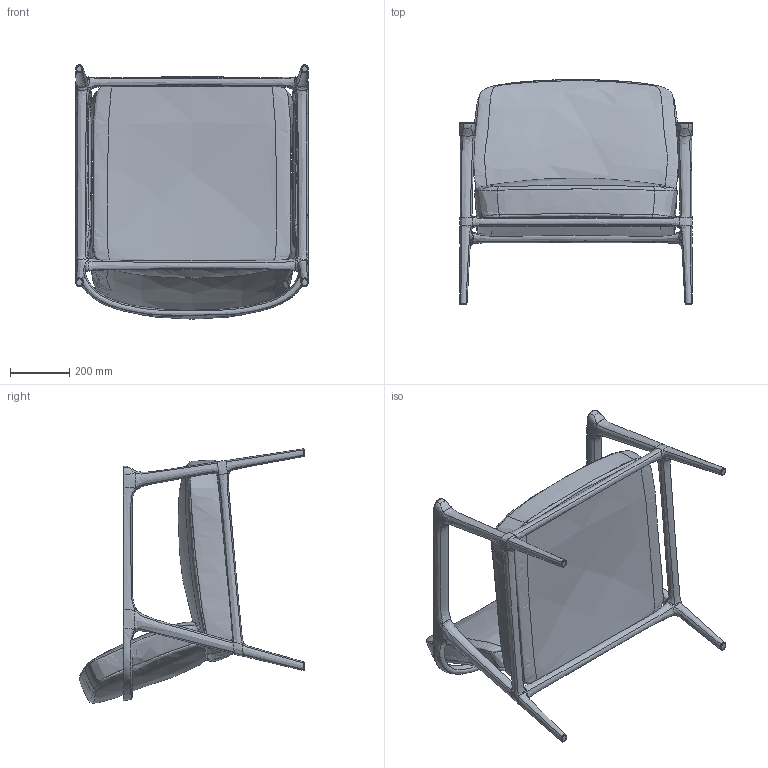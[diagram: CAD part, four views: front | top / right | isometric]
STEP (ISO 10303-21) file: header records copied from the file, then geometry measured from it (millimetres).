
FILE_DESCRIPTION (( 'STEP AP214' ), '1' );
FILE_NAME ('Zio Lounge Chair.STEP', '2014-09-09T14:21:59', ( '' ), ( '' ), 'SwSTEP 2.0', 'SolidWorks 2014', '' );
FILE_SCHEMA (( 'AUTOMOTIVE_DESIGN' ));
Length unit declared in the file: millimetre
Products named in the file (1): Zio Lounge Chair
Bounding box: 786.55 x 760.18 x 858.71 mm (x, y, z)
Volume: 99255000.4 mm3; surface area: 2535152.8 mm2
Topology: 1 solids, 1 shells, 150 faces, 343 edges, 184 vertices
Faces by surface type: bspline 145, plane 5
Entity records: 42574 total; most frequent: CARTESIAN_POINT 40296, ORIENTED_EDGE 686, EDGE_CURVE 343, VERTEX_POINT 184, B_SPLINE_CURVE_WITH_KNOTS 167, EDGE_LOOP 157, ADVANCED_FACE 150, FACE_OUTER_BOUND 150
